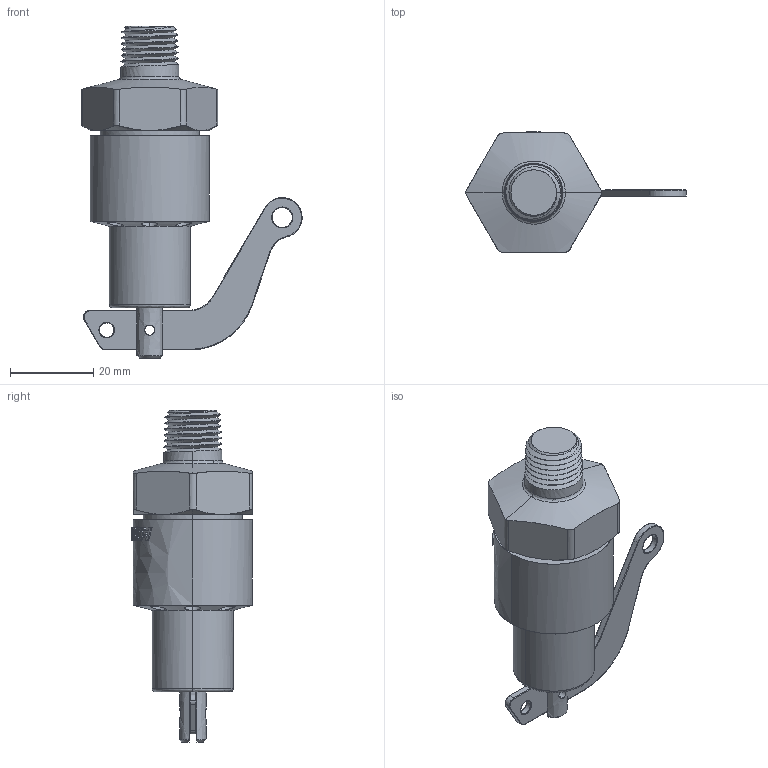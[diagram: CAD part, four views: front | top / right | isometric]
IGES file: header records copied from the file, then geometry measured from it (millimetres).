
Start section: SolidWorks IGES file using NURBS representation for surfaces
Global section: file name: C:\Design\Design\Aquatrol\Customer 3D Files\Series 130\Series 130\Series 130 250 inch\Customer\Series 130 250 inch.IGS; native system: SolidWorks 2015; preprocessor: SolidWorks 2015; author: Karl; date: 150518.100915; units: inch
Bounding box: 52.77 x 28.96 x 79.54 mm (x, y, z)
Surface area: 8527.7 mm2 (no closed solid volume)
Topology: 0 solids, 0 shells, 260 faces, 4480 edges, 4480 vertices
Faces by surface type: bspline 260
